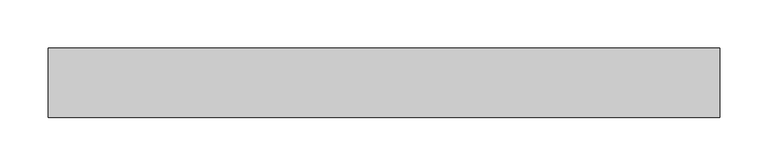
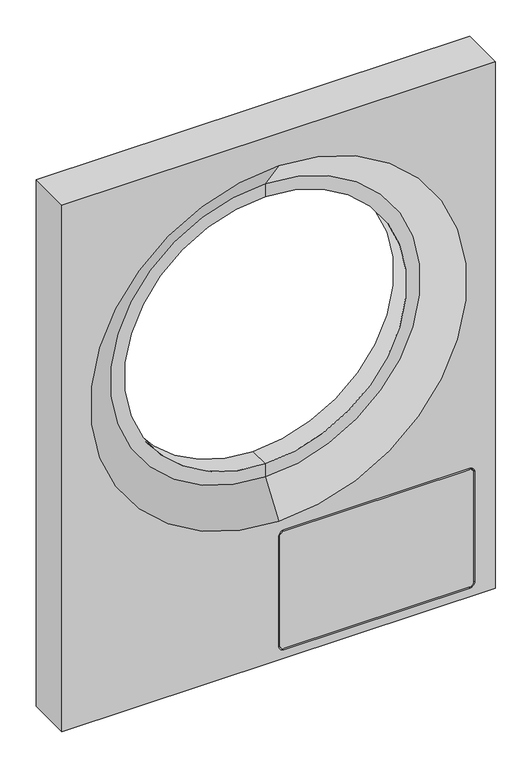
"""IFC4 building model written with IfcOpenShell, lengths in millimetres: proxy geometry, 11924260_EU_PDR510ROPEL_IG : 52510001_EU_11924260_PDR510ROPEL_IG."""

from ifc_helpers import new_model, si_unit, point, frame, frame_2d, origin, place, context, project, spatial, polyline, circle_curve, trimmed, segment, composite_curve, outline, extrude, source, transform, mapped, element, save
from ifc_brep_helpers import plane_surface, revolved_surface, advanced_brep


def specialty_equipment_7c50d67c(model_context):
    return source(origin(), model_context, "Body", "SolidModel", [
        advanced_brep(
        [(346.0, -648.7, 924.0), (346.0, -648.7, 35.3), (-346.0, -648.7, 35.3), (-346.0, -648.7, 924.0), (304.7, -648.7, 252.0), (8.3, -648.7, 252.0), (0.0, -648.7, 243.7), (0.0, -648.7, 58.3), (8.3, -648.7, 50.0), (304.7, -648.7, 50.0), (313.0, -648.7, 58.3), (313.0, -648.7, 243.7), (0.0, -648.7, 795.0), (0.0, -648.7, 344.0), (346.0, -720.0, 924.0), (-346.0, -720.0, 924.0), (-346.0, -720.0, 35.3), (346.0, -720.0, 35.3), (8.3, -720.0, 252.0), (304.7, -720.0, 252.0), (313.0, -720.0, 243.7), (313.0, -720.0, 58.3), (304.7, -720.0, 50.0), (8.3, -720.0, 50.0), (0.0, -720.0, 58.3), (0.0, -720.0, 243.7), (0.0, -720.0, 269.5), (0.0, -720.0, 869.5), (0.0, -683.3, 344.0), (0.0, -683.3, 795.0), (0.0, -683.3, 816.75), (0.0, -683.3, 322.25)],
        [
            (0, 1),
            (1, 2),
            (2, 3),
            (3, 0),
            (4, 5),
            (5, 6, circle_curve(frame((8.3, -648.7, 243.7), z_axis=(0.0, -1.0, 0.0), x_axis=(0.0, 0.0, -1.0)), 8.3)),
            (6, 7),
            (7, 8, circle_curve(frame((8.3, -648.7, 58.3), z_axis=(0.0, -1.0, 0.0), x_axis=(0.0, 0.0, -1.0)), 8.3)),
            (8, 9),
            (9, 10, circle_curve(frame((304.7, -648.7, 58.3), z_axis=(0.0, -1.0, 0.0), x_axis=(0.0, 0.0, -1.0)), 8.3)),
            (10, 11),
            (11, 4, circle_curve(frame((304.7, -648.7, 243.7), z_axis=(0.0, -1.0, 0.0), x_axis=(0.0, 0.0, -1.0)), 8.3)),
            (12, 13, circle_curve(frame((0.0, -648.7, 569.5), z_axis=(0.0, -1.0, 0.0), x_axis=(0.0, 0.0, 1.0)), 225.5)),
            (13, 12, circle_curve(frame((0.0, -648.7, 569.5), z_axis=(0.0, -1.0, 0.0), x_axis=(0.0, 0.0, 1.0)), 225.5)),
            (14, 15),
            (15, 16),
            (16, 17),
            (17, 14),
            (18, 19),
            (19, 20, circle_curve(frame((304.7, -720.0, 243.7), z_axis=(0.0, 1.0, 0.0), x_axis=(0.0, 0.0, -1.0)), 8.3)),
            (20, 21),
            (21, 22, circle_curve(frame((304.7, -720.0, 58.3), z_axis=(0.0, 1.0, 0.0), x_axis=(0.0, 0.0, -1.0)), 8.3)),
            (22, 23),
            (23, 24, circle_curve(frame((8.3, -720.0, 58.3), z_axis=(0.0, 1.0, 0.0), x_axis=(0.0, 0.0, -1.0)), 8.3)),
            (24, 25),
            (25, 18, circle_curve(frame((8.3, -720.0, 243.7), z_axis=(0.0, 1.0, 0.0), x_axis=(0.0, 0.0, -1.0)), 8.3)),
            (26, 27, circle_curve(frame((0.0, -720.0, 569.5), z_axis=(0.0, 1.0, 0.0), x_axis=(0.0, 0.0, 1.0)), 300.0)),
            (27, 26, circle_curve(frame((0.0, -720.0, 569.5), z_axis=(0.0, 1.0, 0.0), x_axis=(0.0, 0.0, 1.0)), 300.0)),
            (3, 15),
            (14, 0),
            (2, 16),
            (1, 17),
            (4, 19),
            (18, 5),
            (6, 25),
            (24, 7),
            (8, 23),
            (22, 9),
            (10, 21),
            (20, 11),
            (28, 13),
            (12, 29),
            (29, 28, circle_curve(frame((0.0, -683.3, 569.5), z_axis=(0.0, -1.0, 0.0), x_axis=(0.0, 0.0, 1.0)), 225.5)),
            (28, 29, circle_curve(frame((0.0, -683.3, 569.5), z_axis=(0.0, -1.0, 0.0), x_axis=(0.0, 0.0, 1.0)), 225.5)),
            (29, 30),
            (30, 31, circle_curve(frame((0.0, -683.3, 569.5), z_axis=(0.0, -1.0, 0.0), x_axis=(0.0, 0.0, 1.0)), 247.25)),
            (31, 28),
            (31, 30, circle_curve(frame((0.0, -683.3, 569.5), z_axis=(0.0, -1.0, 0.0), x_axis=(0.0, 0.0, 1.0)), 247.25)),
            (30, 27),
            (26, 31),
        ],
        [
            plane_surface(frame((-346.0, -648.7, 924.0), z_axis=(0.0, 1.0, 0.0), x_axis=(1.0, 0.0, 0.0))),
            plane_surface(frame((-346.0, -720.0, 924.0), z_axis=(0.0, -1.0, 0.0), x_axis=(-1.0, 0.0, 0.0))),
            plane_surface(frame((346.0, -720.0, 924.0), z_axis=(0.0, 0.0, 1.0), x_axis=(0.0, 1.0, 0.0))),
            plane_surface(frame((-346.0, -720.0, 924.0), z_axis=(-1.0, 0.0, 0.0), x_axis=(0.0, 1.0, 0.0))),
            plane_surface(frame((-346.0, -720.0, 35.3), z_axis=(0.0, 0.0, -1.0), x_axis=(0.0, 1.0, 0.0))),
            plane_surface(frame((346.0, -720.0, 35.3), z_axis=(1.0, 0.0, 0.0), x_axis=(0.0, 1.0, 0.0))),
            plane_surface(frame((304.7, -2000.0, 252.0), z_axis=(0.0, 0.0, -1.0), x_axis=(0.0, 1.0, 0.0))),
            plane_surface(frame((0.0, -2000.0, 243.7), z_axis=(1.0, 0.0, 0.0), x_axis=(0.0, 1.0, 0.0))),
            plane_surface(frame((8.3, -2000.0, 50.0), z_axis=(0.0, 0.0, 1.0), x_axis=(0.0, 1.0, 0.0))),
            plane_surface(frame((313.0, -2000.0, 58.3), z_axis=(-1.0, 0.0, 0.0), x_axis=(0.0, 1.0, 0.0))),
            revolved_surface(polyline([(0.0, -683.3, 795.0), (0.0, -648.7, 795.0)]), (0.0, -903.4911631, 569.5), (0.0, -1.0, 0.0)),
            plane_surface(frame((0.0, -683.3, 569.5), z_axis=(0.0, -1.0, 0.0), x_axis=(0.0, 0.0, 1.0))),
            revolved_surface(polyline([(0.0, -720.0, 869.5), (0.0, -683.3, 816.75)]), (0.0, -903.4911631, 569.5), (0.0, -1.0, 0.0)),
            revolved_surface(polyline([(8.3, -720.0, 235.39999999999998), (8.3, -648.7, 235.39999999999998)]), (8.3, -648.7, 243.7), (0.0, -1.0, 0.0)),
            revolved_surface(polyline([(8.3, -720.0, 50.0), (8.3, -648.7, 50.0)]), (8.3, -648.7, 58.3), (0.0, -1.0, 0.0)),
            revolved_surface(polyline([(304.7, -720.0, 50.0), (304.7, -648.7, 50.0)]), (304.7, -648.7, 58.3), (0.0, -1.0, 0.0)),
            revolved_surface(polyline([(304.7, -720.0, 235.39999999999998), (304.7, -648.7, 235.39999999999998)]), (304.7, -648.7, 243.7), (0.0, -1.0, 0.0)),
        ],
        [
            (0, [[1, 2, 3, 4], [5, 6, 7, 8, 9, 10, 11, 12], [13, 14]]),
            (1, [[15, 16, 17, 18], [19, 20, 21, 22, 23, 24, 25, 26], [27, 28]]),
            (2, [[-4, 29, -15, 30]]),
            (3, [[-3, 31, -16, -29]]),
            (4, [[-2, 32, -17, -31]]),
            (5, [[-1, -30, -18, -32]]),
            (6, [[33, -19, 34, -5]]),
            (7, [[35, -25, 36, -7]]),
            (8, [[37, -23, 38, -9]]),
            (9, [[39, -21, 40, -11]]),
            (10, [[41, -13, 42, 43]]),
            (10, [[-41, 44, -42, -14]]),
            (11, [[-43, 45, 46, 47]]),
            (11, [[-44, -47, 48, -45]]),
            (12, [[-46, 49, -27, 50]]),
            (12, [[-48, -50, -28, -49]]),
            (13, [[-35, -6, -34, -26]]),
            (14, [[-37, -8, -36, -24]]),
            (15, [[-39, -10, -38, -22]]),
            (16, [[-33, -12, -40, -20]]),
        ],
    ),
        extrude(outline(composite_curve([segment(polyline([(250.0, 304.7), (250.0, 8.3)]), True, "CONTINUOUS"), segment(trimmed(circle_curve(frame_2d((243.7, 8.3)), 6.3), [point((250.0, 8.3))], [point((243.7, 2.0))], False, "CARTESIAN"), True, "CONTINUOUS"), segment(polyline([(243.7, 2.0), (58.3, 2.0)]), True, "CONTINUOUS"), segment(trimmed(circle_curve(frame_2d((58.3, 8.3)), 6.3), [point((58.3, 2.0))], [point((52.0, 8.3))], False, "CARTESIAN"), True, "CONTINUOUS"), segment(polyline([(52.0, 8.3), (52.0, 304.7)]), True, "CONTINUOUS"), segment(trimmed(circle_curve(frame_2d((58.3, 304.7)), 6.3), [point((52.0, 304.7))], [point((58.3, 311.0))], False, "CARTESIAN"), True, "CONTINUOUS"), segment(polyline([(58.3, 311.0), (243.7, 311.0)]), True, "CONTINUOUS"), segment(trimmed(circle_curve(frame_2d((243.7, 304.7)), 6.3), [point((243.7, 311.0))], [point((250.0, 304.7))], False, "CARTESIAN"), True, "CONTINUOUS")], self_intersect=False)), frame((0.0, -720.0, 0.0), z_axis=(0.0, 1.0, 0.0), x_axis=(0.0, 0.0, 1.0)), (0.0, 0.0, 1.0), 71.3),
    ])


if __name__ == "__main__":
    model = new_model("IFC4")
    model_context = context("Model", 3, world=origin())
    ifc_project = project(units=[si_unit("LENGTHUNIT", "METRE", prefix="MILLI")], contexts=[model_context])
    site = spatial("IfcSite", under=ifc_project)
    building = spatial("IfcBuilding", under=site)
    placement = place(None, origin())
    specialty_equipment_shape = specialty_equipment_7c50d67c(model_context)
    element("IfcBuildingElementProxy", 1, Name="11924260_EU_PDR510ROPEL_IG : 52510001_EU_11924260_PDR510ROPEL_IG", ObjectType="11924260_EU_PDR510ROPEL_IG : 52510001_EU_11924260_PDR510ROPEL_IG", at=placement, inside=building, context=model_context, shape_type="MappedRepresentation", body=[
        mapped(specialty_equipment_shape, transform((0.0, 0.0, 0.0), x_axis=(1.0, 0.0, 0.0), y_axis=(0.0, 1.0, 0.0), z_axis=(0.0, 0.0, 1.0))),
    ])
    save(model, "model.ifc")
